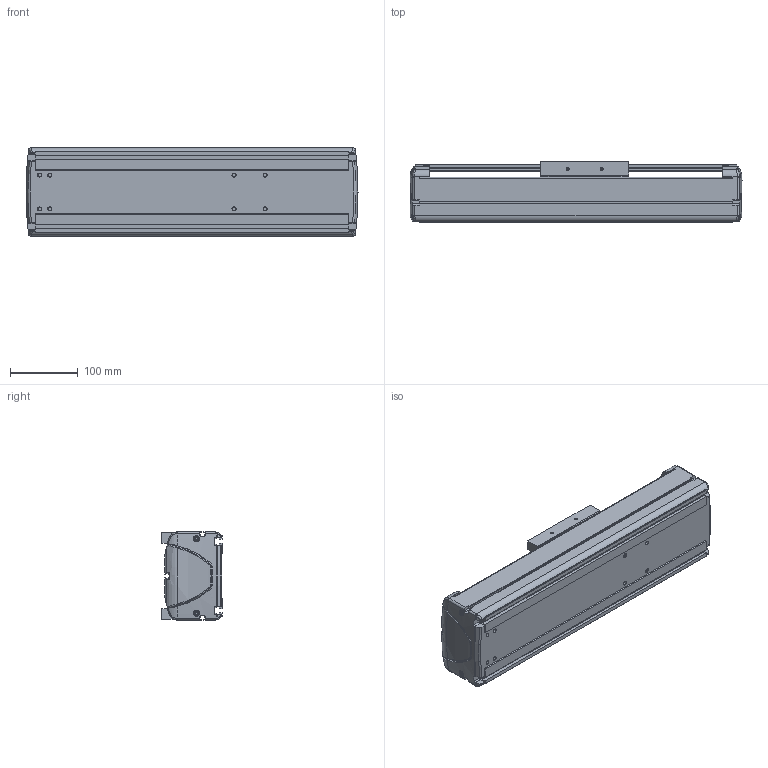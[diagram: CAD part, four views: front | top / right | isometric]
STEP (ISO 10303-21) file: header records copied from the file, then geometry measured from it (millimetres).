
FILE_DESCRIPTION((''),'2;1');
FILE_NAME('BE30E-ST-M_N-15_IGS_PRT','2017-06-17T',(' '),(''),'PRO/ENGINEER BY PARAMETRIC TECHNOLOGY CORPORATION, 2015030','PRO/ENGINEER BY PARAMETRIC TECHNOLOGY CORPORATION, 2015030','');
FILE_SCHEMA(('CONFIG_CONTROL_DESIGN'));
Length unit declared in the file: millimetre
Products named in the file (1): BE30E-ST-M_N-15_IGS_PRT
Bounding box: 490 x 89.8 x 130 mm (x, y, z)
Volume: 1794033.5 mm3; surface area: 640360 mm2
Topology: 2 solids, 61 shells, 1267 faces, 3365 edges, 2184 vertices
Faces by surface type: plane 592, cylinder 515, bspline 58, torus 46, cone 32, sphere 24
Entity records: 42321 total; most frequent: CARTESIAN_POINT 10800, DIRECTION 6476, ORIENTED_EDGE 6454, EDGE_CURVE 3345, AXIS2_PLACEMENT_3D 2301, VERTEX_POINT 2184, VECTOR 1874, LINE 1874
